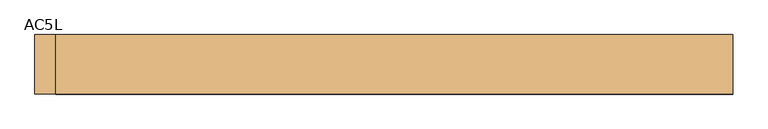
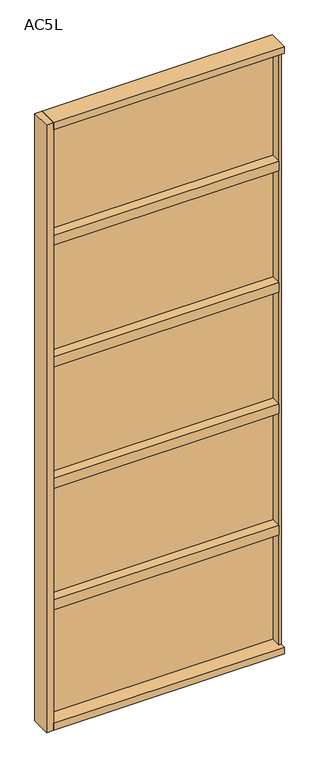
"""IFC4 building model written with IfcOpenShell, lengths in millimetres: door geometry, Mobiliário_Mobiliário de Escritório_Painel Lambri - AC5L (Inicial e Final)_Marelli : AC5L."""

from ifc_helpers import new_model, si_unit, frame, origin, origin_with_axes, place, context, project, spatial, polyline, outline, extrude, source, transform, mapped, element, save


def ac5l_d44fc449(model_context):
    return source(origin(), model_context, "Body", "SweptSolid", [
        extrude(outline(polyline([(500.0, 42.5), (500.0, -42.5), (-470.0, -42.5), (-470.0, 42.5), (500.0, 42.5)])), origin_with_axes(), (0.0, 0.0, 1.0), 30.0),
        extrude(outline(polyline([(490.0, 39.5), (490.0, 21.5), (-470.0, 21.5), (-470.0, 39.5), (490.0, 39.5)])), frame((0.0, 0.0, 30.0), z_axis=(0.0, 0.0, 1.0), x_axis=(1.0, 0.0, 0.0)), (0.0, 0.0, 1.0), 505.0),
        extrude(outline(polyline([(490.0, 21.5), (490.0, -21.5), (-470.0, -21.5), (-470.0, 21.5), (490.0, 21.5)])), frame((0.0, 0.0, 518.5), z_axis=(0.0, 0.0, 1.0), x_axis=(1.0, 0.0, 0.0)), (0.0, 0.0, 1.0), 43.0),
        extrude(outline(polyline([(490.0, 21.5), (490.0, -21.5), (-470.0, -21.5), (-470.0, 21.5), (490.0, 21.5)])), frame((0.0, 0.0, 1058.5), z_axis=(0.0, 0.0, 1.0), x_axis=(1.0, 0.0, 0.0)), (0.0, 0.0, 1.0), 43.0),
        extrude(outline(polyline([(490.0, 39.5), (490.0, 21.5), (-470.0, 21.5), (-470.0, 39.5), (490.0, 39.5)])), frame((0.0, 0.0, 545.0), z_axis=(0.0, 0.0, 1.0), x_axis=(1.0, 0.0, 0.0)), (0.0, 0.0, 1.0), 530.0),
        extrude(outline(polyline([(500.0, 42.5), (500.0, -42.5), (-470.0, -42.5), (-470.0, 42.5), (500.0, 42.5)])), frame((0.0, 0.0, 2670.0), z_axis=(0.0, 0.0, 1.0), x_axis=(1.0, 0.0, 0.0)), (0.0, 0.0, 1.0), 30.0),
        extrude(outline(polyline([(490.0, 39.5), (490.0, 21.5), (-470.0, 21.5), (-470.0, 39.5), (490.0, 39.5)])), frame((0.0, 0.0, 1625.0), z_axis=(0.0, 0.0, 1.0), x_axis=(1.0, 0.0, 0.0)), (0.0, 0.0, 1.0), 530.0),
        extrude(outline(polyline([(490.0, 21.5), (490.0, -21.5), (-470.0, -21.5), (-470.0, 21.5), (490.0, 21.5)])), frame((0.0, 0.0, 2138.5), z_axis=(0.0, 0.0, 1.0), x_axis=(1.0, 0.0, 0.0)), (0.0, 0.0, 1.0), 43.0),
        extrude(outline(polyline([(490.0, 21.5), (490.0, -21.5), (-470.0, -21.5), (-470.0, 21.5), (490.0, 21.5)])), frame((0.0, 0.0, 1598.5), z_axis=(0.0, 0.0, 1.0), x_axis=(1.0, 0.0, 0.0)), (0.0, 0.0, 1.0), 43.0),
        extrude(outline(polyline([(-500.0, -42.5), (-500.0, 42.5), (-470.0, 42.5), (-470.0, -42.5), (-500.0, -42.5)])), origin_with_axes(), (0.0, 0.0, 1.0), 2700.0),
        extrude(outline(polyline([(500.0, -21.5), (490.0, -21.5), (490.0, 21.5), (500.0, 21.5), (500.0, -21.5)])), frame((0.0, 0.0, 30.0), z_axis=(0.0, 0.0, 1.0), x_axis=(1.0, 0.0, 0.0)), (0.0, 0.0, 1.0), 2640.0),
        extrude(outline(polyline([(490.0, 39.5), (490.0, 21.5), (-470.0, 21.5), (-470.0, 39.5), (490.0, 39.5)])), frame((0.0, 0.0, 2165.0), z_axis=(0.0, 0.0, 1.0), x_axis=(1.0, 0.0, 0.0)), (0.0, 0.0, 1.0), 505.0),
        extrude(outline(polyline([(490.0, 39.5), (490.0, 21.5), (-470.0, 21.5), (-470.0, 39.5), (490.0, 39.5)])), frame((0.0, 0.0, 1085.0), z_axis=(0.0, 0.0, 1.0), x_axis=(1.0, 0.0, 0.0)), (0.0, 0.0, 1.0), 530.0),
    ])


if __name__ == "__main__":
    model = new_model("IFC4")
    model_context = context("Model", 3, world=origin())
    ifc_project = project(units=[si_unit("LENGTHUNIT", "METRE", prefix="MILLI")], contexts=[model_context])
    site = spatial("IfcSite", under=ifc_project)
    building = spatial("IfcBuilding", under=site)
    placement = place(None, origin())
    ac5l_shape = ac5l_d44fc449(model_context)
    element("IfcDoor", 1, ObjectType="Mobiliário_Mobiliário de Escritório_Painel Lambri - AC5L (Inicial e Final)_Marelli : AC5L", at=placement, inside=building, context=model_context, shape_type="MappedRepresentation", body=[
        mapped(ac5l_shape, transform((0.0, 0.0, 0.0), x_axis=(1.0, 0.0, 0.0), y_axis=(0.0, 1.0, 0.0), z_axis=(0.0, 0.0, 1.0))),
    ])
    save(model, "model.ifc")
